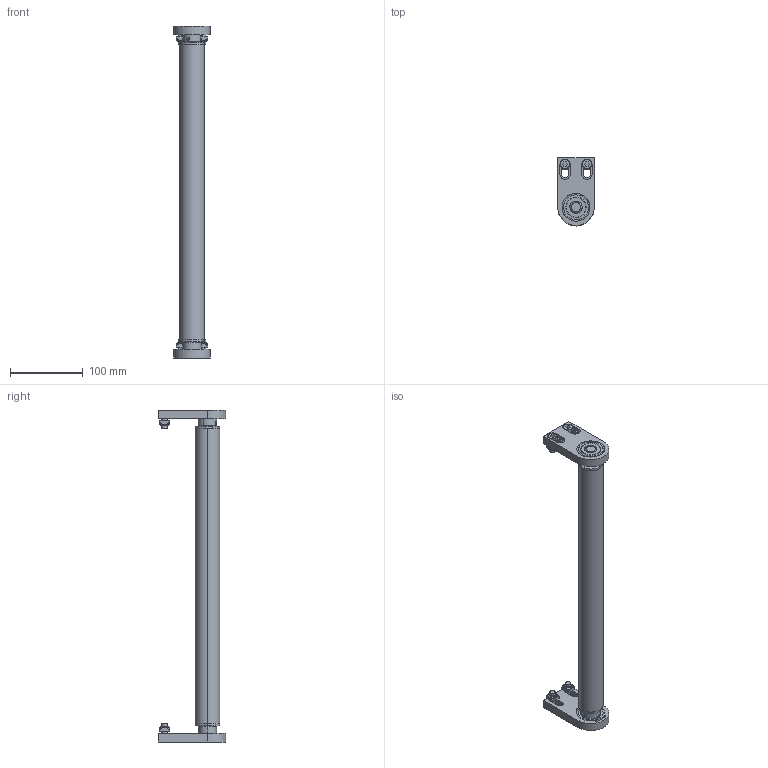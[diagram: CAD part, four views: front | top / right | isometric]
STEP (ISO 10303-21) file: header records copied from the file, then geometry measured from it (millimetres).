
FILE_DESCRIPTION (( 'STEP AP203' ), '1' );
FILE_NAME ('084.050.KSS.400.STEP', '2019-07-30T06:51:10', ( '' ), ( '' ), 'SwSTEP 2.0', 'SolidWorks 2018', '' );
FILE_SCHEMA (( 'CONFIG_CONTROL_DESIGN' ));
Length unit declared in the file: millimetre
Products named in the file (8): 084.802.028; 084.050.KSS.400; 084.802.029-405; 084.802.013-2; 084.802.014; 084.302.000 DADI ALUSIC 13x13-1_084.302.004; 084.301.000 VITI ALUSIC_084.301.003; 084.802.017_084.802.017
Assembly tree (17 placements, depth 2):
  084.050.KSS.400
    084.802.029-405
    084.301.000 VITI ALUSIC_084.301.003  x4
    084.302.000 DADI ALUSIC 13x13-1_084.302.004  x4
    084.802.017_084.802.017  x2
    084.802.028  x2
    084.802.014  x2
    084.802.013-2  x2
Bounding box: 50 x 92.5 x 455 mm (x, y, z)
Volume: 242296.5 mm3; surface area: 154351.4 mm2
Topology: 19 solids, 21 shells, 384 faces, 910 edges, 582 vertices
Faces by surface type: plane 142, cylinder 134, torus 52, cone 32, bspline 16, sphere 8
Entity records: 5980 total; most frequent: CARTESIAN_POINT 1263, DIRECTION 820, ORIENTED_EDGE 700, EDGE_CURVE 350, AXIS2_PLACEMENT_3D 339, VERTEX_POINT 224, EDGE_LOOP 182, CIRCLE 170
